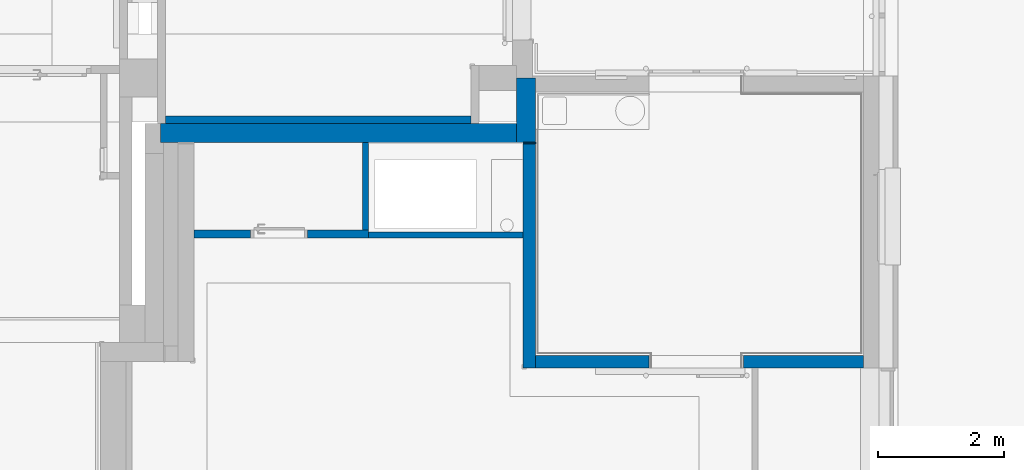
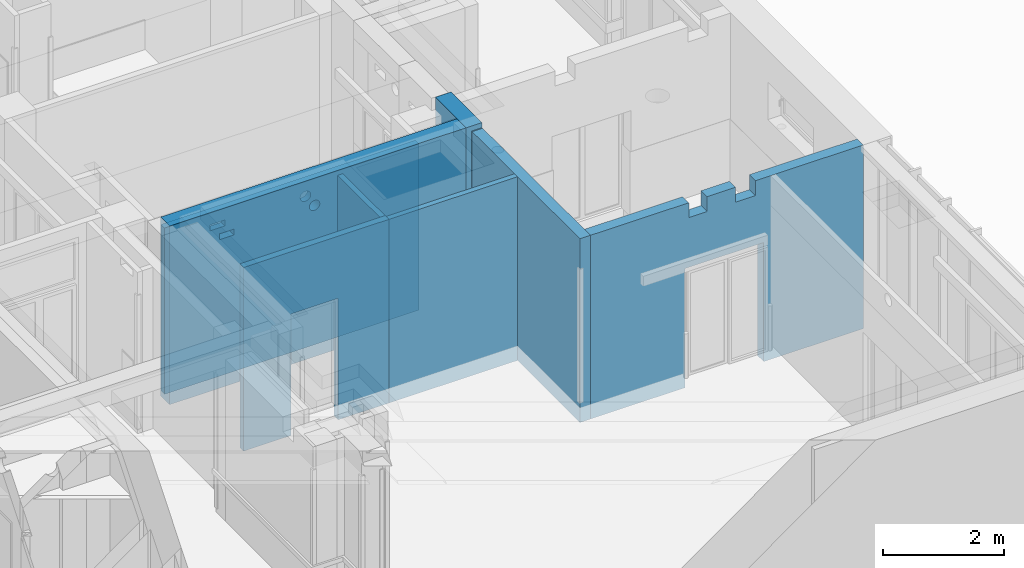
# One storey, part 32 of 140: 9 walls, 9 openings.
"""IFC4 building model written with IfcOpenShell, lengths in metres."""

from ifc_helpers import new_model, entity, si_unit, converted_unit, derived_unit, frame, frame_2d, origin, origin_with_axes, place, context, subcontext, project, spatial, polyline, rectangle, outline, extrude, material, layer, layer_set, layer_usage, element, save


model = new_model("IFC4")

# Units and contexts
model_context = context("Model", 3, precision=1e-05, world=origin())
body_context = subcontext(model_context, "Body", "Model", "MODEL_VIEW")
ifc_project = project(units=[si_unit("LENGTHUNIT", "METRE"), si_unit("AREAUNIT", "SQUARE_METRE"), si_unit("VOLUMEUNIT", "CUBIC_METRE"), si_unit("MASSUNIT", "GRAM", prefix="KILO"), converted_unit("PLANEANGLEUNIT", "DEGREE", entity("IfcPlaneAngleMeasure", 0.0174532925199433), si_unit("PLANEANGLEUNIT", "RADIAN"), dimensions=[0, 0, 0, 0, 0, 0, 0]), derived_unit("THERMALTRANSMITTANCEUNIT", [(si_unit("POWERUNIT", "WATT"), 1), (si_unit("THERMODYNAMICTEMPERATUREUNIT", "KELVIN"), -1), (si_unit("LENGTHUNIT", "METRE"), -2)]), derived_unit("VOLUMETRICFLOWRATEUNIT", [(si_unit("LENGTHUNIT", "METRE"), 3), (converted_unit("TIMEUNIT", "hour", entity("IfcTimeMeasure", 3600.0), si_unit("TIMEUNIT", "SECOND"), dimensions=[0, 0, 1, 0, 0, 0, 0]), -1), (si_unit("LENGTHUNIT", "METRE"), -1)])], contexts=[model_context])

# Site, building, storey
site_placement = place(None, origin())
site = spatial("IfcSite", under=ifc_project, at=site_placement, Name="3. ASŘ", CompositionType="ELEMENT")
building_placement = place(site_placement, origin())
building = spatial("IfcBuilding", under=site, at=building_placement, Name="Pavilon C", CompositionType="ELEMENT")
storey_placement = place(building_placement, origin())
storey = spatial("IfcBuildingStorey", under=building, at=storey_placement, Name="Půdorys 1.NP", CompositionType="ELEMENT", Elevation=0.0)

# Wall
ifc_material_1 = material(Name="ZELEZOBETONOVÁ KCE")
ifc_layer_1 = layer(ifc_material_1, 0.3)
ifc_layer_set_1 = layer_set([ifc_layer_1])
ifc_layer_usage_1 = layer_usage(ifc_layer_set_1, "AXIS2", "POSITIVE", 0.0)
wall_1_placement = place(storey_placement, frame((50.25, -1.02000000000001, -0.1), z_axis=(0.0, 0.0, 1.0), x_axis=(0.0, 1.0, 0.0)))
element("IfcWall", 1, at=wall_1_placement, inside=storey, material=ifc_layer_usage_1, Name="ZELEZOBETONOVÁ KCE", context=body_context, shape_type="SweptSolid", body=[
    extrude(rectangle(XDim=1.02, YDim=0.3, at=frame_2d((0.51, 0.15), x_axis=(1.0, 0.0))), origin_with_axes(), (0.0, 0.0, 1.0), 3.6),
])

# Wall, openings
ifc_material_2 = material(Name="ZELEZOBETONOVÁ KCE")
ifc_layer_2 = layer(ifc_material_2, 0.3)
ifc_layer_set_2 = layer_set([ifc_layer_2])
ifc_layer_usage_2 = layer_usage(ifc_layer_set_2, "AXIS2", "POSITIVE", 0.0)
wall_2_placement = place(storey_placement, frame((44.3, -1.02, -0.1), z_axis=(0.0, 0.0, 1.0), x_axis=(1.0, -4.02431283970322e-17, 0.0)))
wall_2 = element("IfcWall", 2, at=wall_2_placement, inside=storey, material=ifc_layer_usage_2, Name="ZELEZOBETONOVÁ KCE", context=body_context, shape_type="SweptSolid", body=[
    extrude(rectangle(XDim=5.65, YDim=0.3, at=frame_2d((2.825, 0.15), x_axis=(1.0, 0.0))), origin_with_axes(), (0.0, 0.0, 1.0), 3.6),
])
opening_1_placement = place(wall_2_placement, frame((0.944997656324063, 3.80296620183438e-17, 2.99), z_axis=(0.0, 1.0, 0.0), x_axis=(0.0, 0.0, 1.0)))
element("IfcOpeningElement", 3, at=opening_1_placement, cuts=wall_2, Name="UT", ObjectType="Opening", context=body_context, shape_type="SweptSolid", body=[
    extrude(outline(polyline([(0.0, 0.28), (0.12, 0.28), (0.12, 0.0), (0.0, 0.0), (0.0, 0.28)])), origin_with_axes(), (0.0, 0.0, 1.0), 0.3),
])
opening_2_placement = place(wall_2_placement, frame((2.86048476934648, 0.3, 2.95), z_axis=(0.0, -1.0, 0.0), x_axis=(0.0, 0.0, 1.0)))
element("IfcOpeningElement", 4, at=opening_2_placement, cuts=wall_2, Name="ZTI", ObjectType="Opening", context=body_context, shape_type="SweptSolid", body=[
    extrude(outline(polyline([(0.0999999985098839, 0.2), (0.110452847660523, 0.199452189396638), (0.120791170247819, 0.197814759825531), (0.130901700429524, 0.195105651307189), (0.140673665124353, 0.191354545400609), (0.150000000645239, 0.186602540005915), (0.158778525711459, 0.180901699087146), (0.166913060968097, 0.174314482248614), (0.174314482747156, 0.166913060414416), (0.180901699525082, 0.15877852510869), (0.186602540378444, 0.15), (0.191354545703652, 0.140673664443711), (0.195105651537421, 0.130901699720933), (0.197814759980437, 0.120791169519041), (0.199452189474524, 0.110452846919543), (0.2, 0.100000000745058), (0.199452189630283, 0.0895471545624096), (0.19781476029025, 0.0792088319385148), (0.195105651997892, 0.0690983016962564), (0.191354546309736, 0.0593263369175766), (0.186602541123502, 0.0500000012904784), (0.18090170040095, 0.0412214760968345), (0.174314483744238, 0.0330869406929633), (0.166913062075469, 0.0256855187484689), (0.158778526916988, 0.0190983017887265), (0.150000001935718, 0.0133974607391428), (0.140673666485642, 0.00864545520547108), (0.130901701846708, 0.00489434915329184), (0.120791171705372, 0.00218524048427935), (0.110452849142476, 0.000547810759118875), (0.0999999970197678, 0.0), (0.0895471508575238, 0.000547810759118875), (0.0792088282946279, 0.00218524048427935), (0.0690982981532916, 0.00489434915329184), (0.0593263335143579, 0.00864545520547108), (0.0499999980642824, 0.0133974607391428), (0.0412214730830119, 0.0190983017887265), (0.0330869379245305, 0.0256855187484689), (0.0256855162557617, 0.0330869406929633), (0.0190982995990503, 0.0412214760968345), (0.0133974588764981, 0.0500000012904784), (0.00864545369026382, 0.0593263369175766), (0.00489434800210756, 0.0690983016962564), (0.00218523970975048, 0.0792088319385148), (0.000547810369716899, 0.0895471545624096), (0.0, 0.100000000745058), (0.000547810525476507, 0.110452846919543), (0.00218524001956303, 0.120791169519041), (0.00489434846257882, 0.130901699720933), (0.00864545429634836, 0.140673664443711), (0.0133974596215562, 0.15), (0.0190983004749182, 0.15877852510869), (0.025685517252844, 0.166913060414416), (0.0330869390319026, 0.174314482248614), (0.0412214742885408, 0.180901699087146), (0.0499999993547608, 0.186602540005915), (0.0593263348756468, 0.191354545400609), (0.0690982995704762, 0.195105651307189), (0.0792088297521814, 0.197814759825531), (0.0895471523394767, 0.199452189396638), (0.0999999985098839, 0.2)])), origin_with_axes(), (0.0, 0.0, 1.0), 0.3),
])

ifc_material_3 = material(Name="PÓROBETONOVÉ ZDIVO")
ifc_layer_3 = layer(ifc_material_3, 0.12)
ifc_layer_set_3 = layer_set([ifc_layer_3])
ifc_layer_usage_3 = layer_usage(ifc_layer_set_3, "AXIS2", "POSITIVE", 0.0)
wall_3_placement = place(storey_placement, frame((44.375, -0.720000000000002, -0.1)))
wall_3 = element("IfcWall", 5, at=wall_3_placement, inside=storey, material=ifc_layer_usage_3, Name="PÓROBETONOVÉ ZDIVO", context=body_context, shape_type="SweptSolid", body=[
    extrude(rectangle(XDim=4.85, YDim=0.12, at=frame_2d((2.425, 0.06), x_axis=(1.0, 0.0))), origin_with_axes(), (0.0, 0.0, 1.0), 3.35),
])
opening_3_placement = place(wall_3_placement, frame((2.78548476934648, 0.12, 2.95), z_axis=(0.0, -1.0, 0.0), x_axis=(0.0, 0.0, 1.0)))
element("IfcOpeningElement", 6, at=opening_3_placement, cuts=wall_3, Name="ZTI", ObjectType="Opening", context=body_context, shape_type="SweptSolid", body=[
    extrude(outline(polyline([(0.0999999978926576, 0.2), (0.110452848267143, 0.199452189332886), (0.120791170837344, 0.197814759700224), (0.130901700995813, 0.195105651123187), (0.14067366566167, 0.191354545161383), (0.150000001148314, 0.186602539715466), (0.15877852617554, 0.180901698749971), (0.166913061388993, 0.174314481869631), (0.174314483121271, 0.166913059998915), (0.180901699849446, 0.158778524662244), (0.186602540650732, 0.14999999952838), (0.191354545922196, 0.140673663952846), (0.195105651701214, 0.130901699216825), (0.197814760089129, 0.12079116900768), (0.19945218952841, 0.110452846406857), (0.2, 0.100000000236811), (0.199452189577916, 0.0895471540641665), (0.197814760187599, 0.0792088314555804), (0.195105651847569, 0.0690983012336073), (0.191354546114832, 0.0593263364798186), (0.186602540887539, 0.0500000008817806), (0.180901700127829, 0.0412214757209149), (0.174314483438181, 0.0330869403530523), (0.166913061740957, 0.0256855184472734), (0.158778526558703, 0.0190983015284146), (0.150000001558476, 0.0133974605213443), (0.140673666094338, 0.00864545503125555), (0.130901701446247, 0.00489434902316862), (0.120791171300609, 0.00218524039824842), (0.110452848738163, 0.000547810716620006), (0.0999999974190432, 0.0), (0.0895471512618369, 0.000547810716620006), (0.0792088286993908, 0.00218524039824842), (0.069098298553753, 0.00489434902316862), (0.0593263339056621, 0.00864545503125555), (0.0499999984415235, 0.0133974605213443), (0.0412214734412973, 0.0190983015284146), (0.0330869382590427, 0.0256855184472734), (0.0256855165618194, 0.0330869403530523), (0.0190982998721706, 0.0412214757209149), (0.0133974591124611, 0.0500000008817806), (0.00864545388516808, 0.0593263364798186), (0.00489434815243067, 0.0690983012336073), (0.00218523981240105, 0.0792088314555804), (0.00054781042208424, 0.0895471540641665), (0.0, 0.100000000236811), (0.00054781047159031, 0.110452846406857), (0.00218523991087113, 0.12079116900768), (0.00489434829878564, 0.130901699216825), (0.00864545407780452, 0.140673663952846), (0.013397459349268, 0.14999999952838), (0.0190983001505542, 0.158778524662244), (0.0256855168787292, 0.166913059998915), (0.0330869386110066, 0.174314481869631), (0.0412214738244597, 0.180901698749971), (0.0499999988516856, 0.186602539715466), (0.0593263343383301, 0.191354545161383), (0.0690982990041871, 0.195105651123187), (0.0792088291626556, 0.197814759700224), (0.0895471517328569, 0.199452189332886), (0.0999999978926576, 0.2)])), origin_with_axes(), (0.0, 0.0, 1.0), 0.12),
])
opening_4_placement = place(wall_3_placement, frame((1.15004296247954, 0.12, 2.99), z_axis=(0.0, -1.0, 0.0), x_axis=(0.0, 0.0, 1.0)))
element("IfcOpeningElement", 7, at=opening_4_placement, cuts=wall_3, Name="Prostup stěnou", ObjectType="Opening", context=body_context, shape_type="SweptSolid", body=[
    extrude(outline(polyline([(0.0, 0.28), (0.12, 0.28), (0.12, 0.0), (0.0, 0.0), (0.0, 0.28)])), origin_with_axes(), (0.0, 0.0, 1.0), 0.12),
])

ifc_material_4 = material(Name="ZELEZOBETONOVÁ KCE")
ifc_layer_4 = layer(ifc_material_4, 0.2)
ifc_layer_set_4 = layer_set([ifc_layer_4])
ifc_layer_usage_4 = layer_usage(ifc_layer_set_4, "AXIS2", "POSITIVE", 0.0)
wall_4_placement = place(storey_placement, frame((50.25, -4.6, -0.3), z_axis=(0.0, 0.0, 1.0), x_axis=(1.0, -1.74902827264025e-16, 0.0)))
wall_4 = element("IfcWall", 8, at=wall_4_placement, inside=storey, material=ifc_layer_usage_4, Name="ZELEZOBETONOVÁ KCE", context=body_context, shape_type="SweptSolid", body=[
    extrude(rectangle(XDim=5.19999999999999, YDim=0.2, at=frame_2d((2.59999999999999, 0.1), x_axis=(1.0, 0.0))), origin_with_axes(), (0.0, 0.0, 1.0), 3.7),
])
opening_5_placement = place(wall_4_placement, frame((3.3, 0.200000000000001, 0.0), z_axis=(0.0, -1.0, 0.0), x_axis=(0.0, 0.0, 1.0)))
element("IfcOpeningElement", 9, at=opening_5_placement, cuts=wall_4, Name="Dveřní otvor", ObjectType="Opening", context=body_context, shape_type="SweptSolid", body=[
    extrude(outline(polyline([(0.0, 1.5), (2.4, 1.5), (2.4, 0.0), (0.0, 0.0), (0.0, 1.5)])), origin_with_axes(), (0.0, 0.0, 1.0), 0.2),
])
opening_6_placement = place(wall_4_placement, frame((1.8726514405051, 3.27532031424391e-16, 3.4), z_axis=(0.0, 1.0, 0.0), x_axis=(0.0, 0.0, 1.0)))
element("IfcOpeningElement", 10, at=opening_6_placement, cuts=wall_4, Name="VZT", ObjectType="Opening", context=body_context, shape_type="SweptSolid", body=[
    extrude(outline(polyline([(0.0, 0.35), (0.3, 0.35), (0.3, 0.0), (0.0, 0.0), (0.0, 0.35)])), origin_with_axes(), (0.0, 0.0, 1.0), 0.2),
])
opening_7_placement = place(wall_4_placement, frame((2.76388476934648, 4.83411260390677e-16, 3.4), z_axis=(0.0, 1.0, 0.0), x_axis=(0.0, 0.0, 1.0)))
element("IfcOpeningElement", 11, at=opening_7_placement, cuts=wall_4, Name="VZT", ObjectType="Opening", context=body_context, shape_type="SweptSolid", body=[
    extrude(outline(polyline([(0.0, 0.38), (0.3, 0.38), (0.3, 0.0), (0.0, 0.0), (0.0, 0.38)])), origin_with_axes(), (0.0, 0.0, 1.0), 0.200000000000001),
])

# Wall, opening
ifc_material_5 = material(Name="ZELEZOBETONOVÁ KCE")
ifc_layer_5 = layer(ifc_material_5, 0.2)
ifc_layer_set_5 = layer_set([ifc_layer_5])
ifc_layer_usage_5 = layer_usage(ifc_layer_set_5, "AXIS2", "POSITIVE", 0.0)
wall_5_placement = place(storey_placement, frame((50.25, -4.6, -0.3), z_axis=(0.0, 0.0, 1.0), x_axis=(0.0, 1.0, 0.0)))
wall_5 = element("IfcWall", 12, at=wall_5_placement, inside=storey, material=ifc_layer_usage_5, Name="ZELEZOBETONOVÁ KCE", context=body_context, shape_type="SweptSolid", body=[
    extrude(rectangle(XDim=3.56, YDim=0.2, at=frame_2d((1.78, 0.1), x_axis=(1.0, 0.0))), origin_with_axes(), (0.0, 0.0, 1.0), 3.7),
])
opening_8_placement = place(wall_5_placement, frame((2.36499999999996, 0.199999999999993, 3.29), z_axis=(0.0, -1.0, 0.0), x_axis=(0.0, 0.0, 1.0)))
element("IfcOpeningElement", 13, at=opening_8_placement, cuts=wall_5, Name="RAD", ObjectType="Opening", context=body_context, shape_type="SweptSolid", body=[
    extrude(outline(polyline([(0.0999999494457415, 0.0), (0.0895471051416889, 0.000547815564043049), (0.0792087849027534, 0.00218524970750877), (0.0690982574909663, 0.0048943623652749), (0.0593262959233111, 0.00864547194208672), (0.0499999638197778, 0.0133974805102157), (0.0412214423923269, 0.0190983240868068), (0.0330869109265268, 0.0256855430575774), (0.025685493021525, 0.0330869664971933), (0.0190982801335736, 0.0412215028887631), (0.0133974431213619, 0.0500000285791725), (0.00864544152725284, 0.0593263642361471), (0.00489433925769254, 0.0690983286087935), (0.00218523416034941, 0.079208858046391), (0.000547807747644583, 0.0895471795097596), (0.0, 0.100000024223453), (0.000547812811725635, 0.11045286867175), (0.0021852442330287, 0.120791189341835), (0.00489435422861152, 0.130901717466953), (0.00864546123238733, 0.140673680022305), (0.0133974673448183, 0.15000001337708), (0.0190983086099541, 0.158778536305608), (0.025685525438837, 0.166913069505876), (0.0330869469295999, 0.174314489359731), (0.0412214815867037, 0.180901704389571), (0.0500000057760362, 0.186602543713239), (0.0593263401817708, 0.191354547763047), (0.0690983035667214, 0.195105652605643), (0.0792088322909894, 0.197814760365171), (0.0895471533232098, 0.199452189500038), (0.0999999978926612, 0.2), (0.110452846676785, 0.199452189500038), (0.120791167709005, 0.197814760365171), (0.130901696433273, 0.195105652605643), (0.140673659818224, 0.191354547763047), (0.149999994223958, 0.186602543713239), (0.158778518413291, 0.180901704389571), (0.166913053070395, 0.174314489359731), (0.174314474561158, 0.166913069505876), (0.18090169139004, 0.158778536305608), (0.186602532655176, 0.15000001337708), (0.191354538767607, 0.140673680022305), (0.195105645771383, 0.130901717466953), (0.197814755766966, 0.120791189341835), (0.199452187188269, 0.11045286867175), (0.199999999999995, 0.100000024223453), (0.19945219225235, 0.0895471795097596), (0.197814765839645, 0.079208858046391), (0.195105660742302, 0.0690983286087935), (0.191354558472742, 0.0593263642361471), (0.186602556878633, 0.0500000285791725), (0.180901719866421, 0.0412215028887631), (0.17431450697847, 0.0330869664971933), (0.166913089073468, 0.0256855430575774), (0.158778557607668, 0.0190983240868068), (0.150000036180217, 0.0133974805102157), (0.140673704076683, 0.00864547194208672), (0.130901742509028, 0.0048943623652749), (0.120791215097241, 0.00218524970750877), (0.110452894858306, 0.000547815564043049), (0.0999999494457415, 0.0)])), origin_with_axes(), (0.0, 0.0, 1.0), 0.2),
])

# Walls
ifc_material_6 = material(Name="EPS")
ifc_layer_6 = layer(ifc_material_6, 0.02)
ifc_layer_set_6 = layer_set([ifc_layer_6])
ifc_layer_usage_6 = layer_usage(ifc_layer_set_6, "AXIS2", "POSITIVE", 0.0)
wall_6_placement = place(storey_placement, frame((50.25, -1.02, -0.3), z_axis=(0.0, 0.0, 1.0), x_axis=(-1.0, -3.41060513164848e-15, 0.0)))
element("IfcWall", 14, at=wall_6_placement, inside=storey, material=ifc_layer_usage_6, Name="EPS", context=body_context, shape_type="SweptSolid", body=[
    extrude(rectangle(XDim=0.2, YDim=0.02, at=frame_2d((0.1, 0.01), x_axis=(1.0, 0.0))), origin_with_axes(), (0.0, 0.0, 1.0), 3.7),
])
ifc_material_7 = material(Name="SDK OPL. PROFESÍ/SDK OPL. BEZ PO")
ifc_layer_7 = layer(ifc_material_7, 0.1)
ifc_layer_set_7 = layer_set([ifc_layer_7])
ifc_layer_usage_7 = layer_usage(ifc_layer_set_7, "AXIS2", "POSITIVE", 0.0)
wall_7_placement = place(storey_placement, frame((50.05, -2.44000000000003, -0.3), z_axis=(0.0, 0.0, 1.0), x_axis=(-1.0, 0.0, 0.0)))
element("IfcWall", 15, at=wall_7_placement, inside=storey, material=ifc_layer_usage_7, Name="SDK OPL. PROFESÍ/SDK OPL. BEZ PO", context=body_context, shape_type="SweptSolid", body=[
    extrude(rectangle(XDim=2.44999999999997, YDim=0.1, at=frame_2d((1.22499999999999, 0.05), x_axis=(1.0, 0.0))), origin_with_axes(), (0.0, 0.0, 1.0), 3.7),
])
ifc_material_8 = material(Name="SDK OPL. PROFESÍ/SDK OPL. BEZ PO")
ifc_layer_8 = layer(ifc_material_8, 0.1)
ifc_layer_set_8 = layer_set([ifc_layer_8])
ifc_layer_usage_8 = layer_usage(ifc_layer_set_8, "AXIS2", "POSITIVE", 0.0)
wall_8_placement = place(storey_placement, frame((47.6, -2.41500000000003, -0.3), z_axis=(0.0, 0.0, 1.0), x_axis=(0.0, 1.0, 0.0)))
element("IfcWall", 16, at=wall_8_placement, inside=storey, material=ifc_layer_usage_8, Name="SDK OPL. PROFESÍ/SDK OPL. BEZ PO", context=body_context, shape_type="SweptSolid", body=[
    extrude(rectangle(XDim=1.39500000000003, YDim=0.1, at=frame_2d((0.697500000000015, 0.05), x_axis=(1.0, 0.0))), origin_with_axes(), (0.0, 0.0, 1.0), 3.7),
])

# Wall, opening
ifc_material_9 = material(Name="SDK - 1 KCE + DVOJITÉ OPLÁŠTĚNÍ")
ifc_layer_9 = layer(ifc_material_9, 0.125)
ifc_layer_set_9 = layer_set([ifc_layer_9])
ifc_layer_usage_9 = layer_usage(ifc_layer_set_9, "AXIS2", "POSITIVE", 0.0)
wall_9_placement = place(storey_placement, frame((44.83, -2.54000000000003, -0.3), z_axis=(0.0, 0.0, 1.0), x_axis=(1.0, -1.64168718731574e-16, 0.0)))
wall_9 = element("IfcWall", 17, at=wall_9_placement, inside=storey, material=ifc_layer_usage_9, Name="SDK - 1 KCE + DVOJITÉ OPLÁŠTĚNÍ", context=body_context, shape_type="SweptSolid", body=[
    extrude(rectangle(XDim=2.77000000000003, YDim=0.125, at=frame_2d((1.38500000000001, 0.0625), x_axis=(1.0, 0.0))), origin_with_axes(), (0.0, 0.0, 1.0), 3.7),
])
opening_9_placement = place(wall_9_placement, frame((0.9, 1.47751846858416e-16, 0.0), z_axis=(0.0, 1.0, 0.0), x_axis=(0.0, 0.0, 1.0)))
element("IfcOpeningElement", 18, at=opening_9_placement, cuts=wall_9, Name="Dveřní otvor", ObjectType="Opening", context=body_context, shape_type="SweptSolid", body=[
    extrude(outline(polyline([(0.0, 0.9), (2.45, 0.9), (2.45, 0.0), (0.0, 0.0), (0.0, 0.9)])), origin_with_axes(), (0.0, 0.0, 1.0), 0.125),
])

save(model, "model.ifc")
